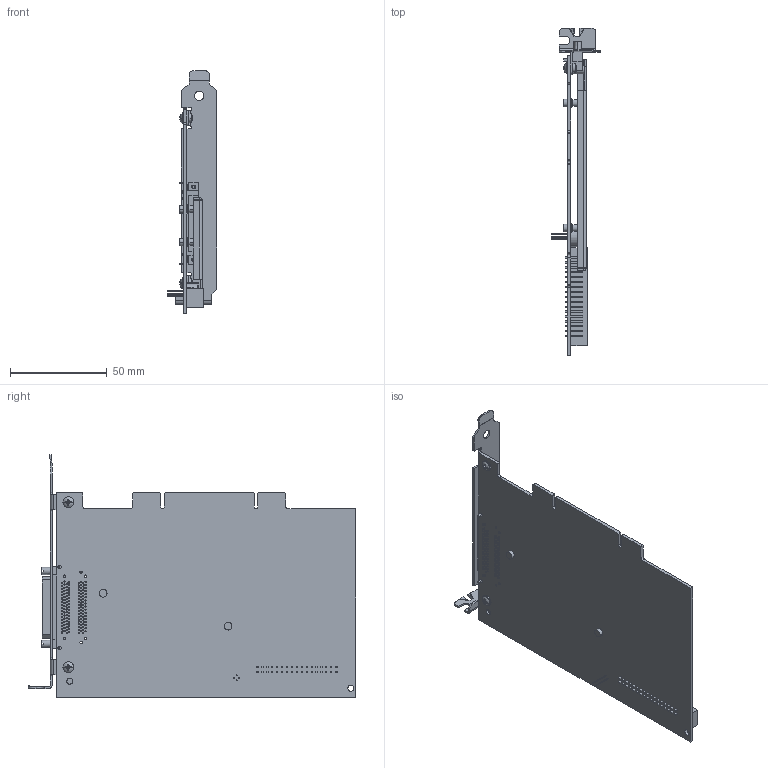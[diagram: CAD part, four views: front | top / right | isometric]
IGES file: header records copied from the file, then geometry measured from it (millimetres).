
Start section:  PTC IGES file: cu-pci-6251.igs
Global section: file name: cu-pci-6251.igs; native system: Pro/ENGINEER by Parametric Technology Corporation; preprocessor: 2006300; author: chrisj; organization: Unknown; date: 20080508.084223; units: inch
Bounding box: 25.73 x 169.49 x 125.41 mm (x, y, z)
Surface area: 55644.7 mm2 (no closed solid volume)
Topology: 0 solids, 0 shells, 1423 faces, 7424 edges, 7384 vertices
Faces by surface type: bspline 880, revolution 543
